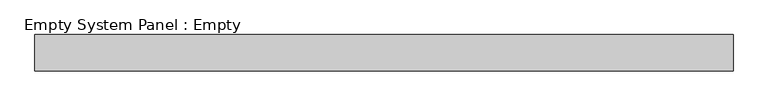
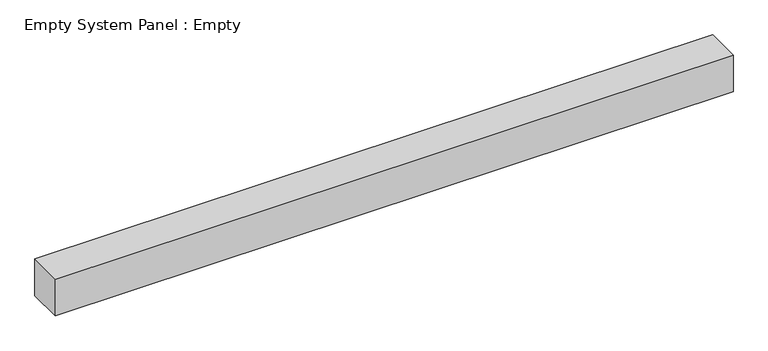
"""IFC4 building model written with IfcOpenShell, lengths in millimetres: plate geometry, Empty System Panel : Empty."""

from ifc_helpers import new_model, si_unit, origin, origin_with_axes, place, context, project, spatial, polyline, outline, extrude, source, transform, mapped, element, save


def empty_system_panel_empty_71fd4c2e(model_context):
    return source(origin(), model_context, "Body", "SweptSolid", [
        extrude(outline(polyline([(962.5, -50.0), (-962.5, -50.0), (-962.5, 50.0), (962.5, 50.0), (962.5, -50.0)])), origin_with_axes(), (0.0, 0.0, 1.0), 110.0),
    ])


if __name__ == "__main__":
    model = new_model("IFC4")
    model_context = context("Model", 3, world=origin())
    ifc_project = project(units=[si_unit("LENGTHUNIT", "METRE", prefix="MILLI")], contexts=[model_context])
    site = spatial("IfcSite", under=ifc_project)
    building = spatial("IfcBuilding", under=site)
    placement = place(None, origin())
    empty_system_panel_empty_shape = empty_system_panel_empty_71fd4c2e(model_context)
    element("IfcPlate", 1, ObjectType="Empty System Panel : Empty", at=placement, inside=building, context=model_context, shape_type="MappedRepresentation", body=[
        mapped(empty_system_panel_empty_shape, transform((0.0, 0.0, 0.0), x_axis=(1.0, 0.0, 0.0), y_axis=(0.0, 1.0, 0.0), z_axis=(0.0, 0.0, 1.0))),
    ])
    save(model, "model.ifc")
